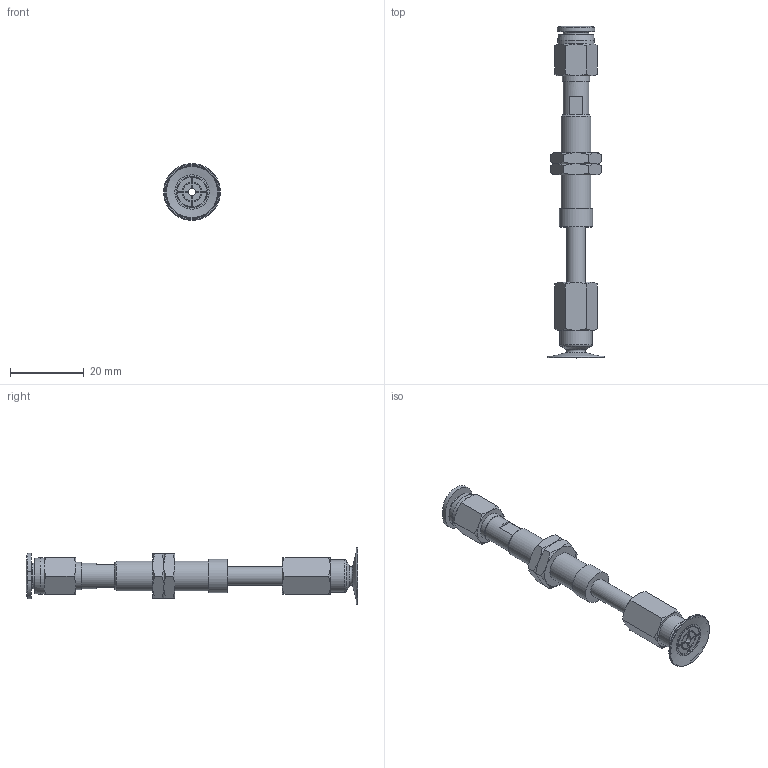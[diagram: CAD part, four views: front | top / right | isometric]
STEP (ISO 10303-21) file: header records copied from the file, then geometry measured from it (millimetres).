
FILE_DESCRIPTION(('STEP AP203'),'1');
FILE_NAME('-O.stp','2025-08-26T08:53:22',(' '),(' '),'Spatial InterOp 3D',' ',' ');
FILE_SCHEMA(('CONFIG_CONTROL_DESIGN'));
Length unit declared in the file: millimetre
Products named in the file (7): BNABPATS-15B-15-※-O; ADAPTER; NAPATS-10A-15--M; NAPATS-10A-15--F; Nut-10A-S; BPAG-15B-※_3D; PC-C_06-M5
Assembly tree (7 placements, depth 2):
  BNABPATS-15B-15-※-O
    ADAPTER
    NAPATS-10A-15--M
    NAPATS-10A-15--F
    Nut-10A-S  x2
    BPAG-15B-※_3D
    PC-C_06-M5
Bounding box: 15.4 x 89.98 x 15.4 mm (x, y, z)
Volume: 3956.6 mm3; surface area: 5995.4 mm2
Topology: 6 solids, 9 shells, 206 faces, 446 edges, 270 vertices
Faces by surface type: plane 78, cone 71, cylinder 38, torus 12, bspline 4, revolution 3
Full cylindrical faces by diameter (mm): 2 x3, 4 x4, 4.134 x1, 5 x3, 6 x2, 7 x2, 7.188 x2, 7.4 x1, 8 x1, 8.2 x1, 8.5 x1, 8.7 x1, 9 x1, 10 x1
Entity records: 5440 total; most frequent: CARTESIAN_POINT 1473, DIRECTION 755, ORIENTED_EDGE 668, EDGE_CURVE 336, AXIS2_PLACEMENT_3D 326, EDGE_LOOP 258, VERTEX_POINT 230, FACE_OUTER_BOUND 158
